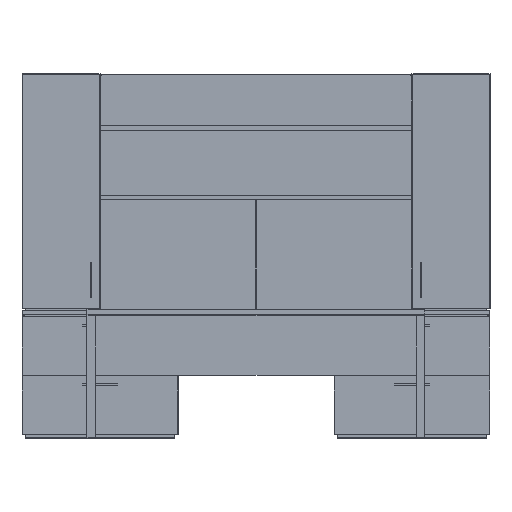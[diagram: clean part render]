
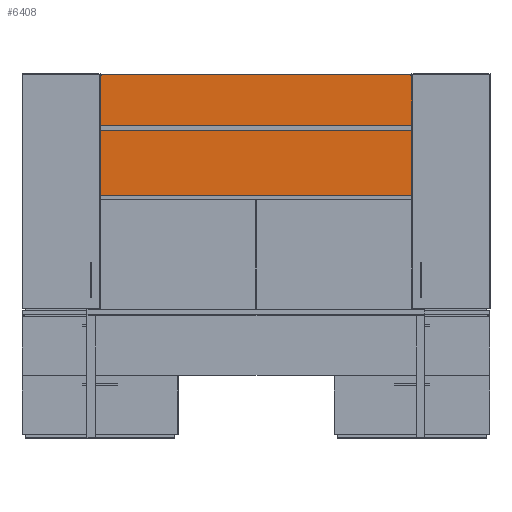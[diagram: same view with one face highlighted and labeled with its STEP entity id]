
A CAD part, top view. The second image highlights one B-rep face of the part: STEP entity #6408.
In plain terms, the highlighted planar face has unit normal (0, 0, 1).
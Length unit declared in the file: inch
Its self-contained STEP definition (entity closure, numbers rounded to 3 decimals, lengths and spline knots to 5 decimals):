
#1544=FACE_OUTER_BOUND('',#1876,.T.);
#1876=EDGE_LOOP('',(#5587,#5588,#5589,#5590));
#2496=LINE('',#10737,#3180);
#2499=LINE('',#10743,#3183);
#2504=LINE('',#10753,#3188);
#2506=LINE('',#10756,#3190);
#3180=VECTOR('',#8543,0.3937);
#3183=VECTOR('',#8548,0.3937);
#3188=VECTOR('',#8557,0.3937);
#3190=VECTOR('',#8561,0.3937);
#3676=VERTEX_POINT('',#10734);
#3677=VERTEX_POINT('',#10736);
#3679=VERTEX_POINT('',#10742);
#3682=VERTEX_POINT('',#10752);
#4320=EDGE_CURVE('',#3676,#3677,#2496,.T.);
#4323=EDGE_CURVE('',#3679,#3677,#2499,.T.);
#4328=EDGE_CURVE('',#3682,#3679,#2504,.T.);
#4330=EDGE_CURVE('',#3682,#3676,#2506,.T.);
#5587=ORIENTED_EDGE('',*,*,#4330,.F.);
#5588=ORIENTED_EDGE('',*,*,#4328,.T.);
#5589=ORIENTED_EDGE('',*,*,#4323,.T.);
#5590=ORIENTED_EDGE('',*,*,#4320,.F.);
#6080=PLANE('',#7234);
#6408=ADVANCED_FACE('',(#1544),#6080,.T.);
#7234=AXIS2_PLACEMENT_3D('',#10757,#8562,#8563);
#8543=DIRECTION('',(-1.,0.,0.));
#8548=DIRECTION('',(0.,-1.,0.));
#8557=DIRECTION('',(-1.,0.,0.));
#8561=DIRECTION('',(0.,-1.,0.));
#8562=DIRECTION('center_axis',(0.,0.,1.));
#8563=DIRECTION('ref_axis',(1.,0.,0.));
#10734=CARTESIAN_POINT('',(72.,-29.,0.75));
#10736=CARTESIAN_POINT('',(0.,-29.,0.75));
#10737=CARTESIAN_POINT('',(72.,-29.,0.75));
#10742=CARTESIAN_POINT('',(0.,0.,0.75));
#10743=CARTESIAN_POINT('',(0.,0.,0.75));
#10752=CARTESIAN_POINT('',(72.,0.,0.75));
#10753=CARTESIAN_POINT('',(72.,0.,0.75));
#10756=CARTESIAN_POINT('',(72.,-13.,0.75));
#10757=CARTESIAN_POINT('Origin',(36.,-6.5,0.75));
